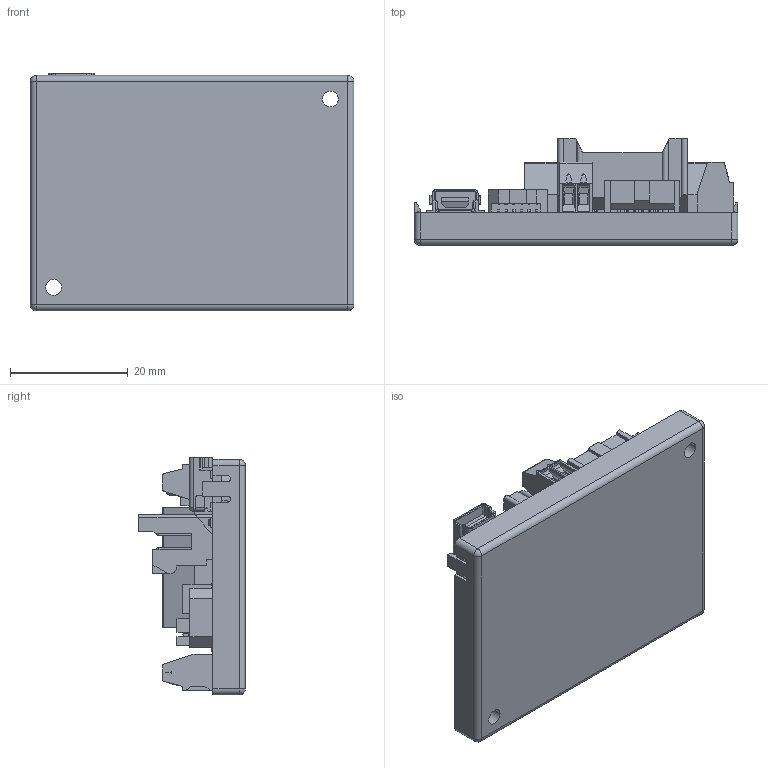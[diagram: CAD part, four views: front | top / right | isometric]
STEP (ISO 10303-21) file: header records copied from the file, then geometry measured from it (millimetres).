
FILE_DESCRIPTION((''),'2;1');
FILE_NAME('530239_EPOS2_24_2_DCX_ASM','2016-10-26T',('mmagrari'),(''),'CREO PARAMETRIC BY PTC INC, 2016050','CREO PARAMETRIC BY PTC INC, 2016050','');
FILE_SCHEMA(('CONFIG_CONTROL_DESIGN'));
Products named in the file (28): 530239_BOARD_EPOS2_24_2_DCX; BOARD_HOLE_PLUG; MPT_0_5-8-2_54_63911; MPT_0_5-5-2_54; MPT_0_5-8-2_54_98990; 338522712; USB_MINI_B; DIP_SWITCH_2P_2; TYCO_V23535_2; MPT_0_5-2-2_54-57990; DF3A-3P-2DSA-27900; SHF_105_01_D_HEADER; RLNPLJ16AYCLF3PRSEE9RX31F; T_1S71_02_05_D_SM; SHF_105_01_L_D_SM_1_ASM; JST_B2B-PH-K-S_SW0001; COVER_36_2; LED_BASE; LED_GREEN; LED_RED; STATUS_INDICATOR_LED_ASM; SILKSCREEN_1-8_WHITE; SILKSCREEN_9-13_WHITE; SILKSCREEN_BASE_8X20; SILKSCREEN_MAXON_LOGO_20X3; SILKSCREEN_530239_TEXT1; SILKSCREEN_530239_ASM; 530239_EPOS2_24_2_DCX_ASM
Assembly tree (31 placements, depth 3):
  530239_EPOS2_24_2_DCX_ASM
    530239_BOARD_EPOS2_24_2_DCX
    BOARD_HOLE_PLUG  x2
    MPT_0_5-8-2_54_63911
    MPT_0_5-5-2_54
    MPT_0_5-8-2_54_98990
    338522712  x2
    USB_MINI_B
    DIP_SWITCH_2P_2
    TYCO_V23535_2
    MPT_0_5-2-2_54-57990
    DF3A-3P-2DSA-27900
    SHF_105_01_L_D_SM_1_ASM
      SHF_105_01_D_HEADER
      RLNPLJ16AYCLF3PRSEE9RX31F
      T_1S71_02_05_D_SM
    JST_B2B-PH-K-S_SW0001
    COVER_36_2
    STATUS_INDICATOR_LED_ASM
      LED_BASE  x2
      LED_GREEN
      LED_RED
    SILKSCREEN_1-8_WHITE  x2
    SILKSCREEN_9-13_WHITE
    SILKSCREEN_530239_ASM
      SILKSCREEN_BASE_8X20
      SILKSCREEN_MAXON_LOGO_20X3
      SILKSCREEN_530239_TEXT1
Bounding box: 55 x 18.1 x 40.39 mm (x, y, z)
Volume: 10541.1 mm3; surface area: 19103.7 mm2
Topology: 63 solids, 68 shells, 5413 faces, 14896 edges, 9790 vertices
Faces by surface type: plane 4827, cylinder 494, torus 46, cone 24, sphere 22
Entity records: 209488 total; most frequent: CARTESIAN_POINT 28642, ORIENTED_EDGE 27478, DIRECTION 24879, PRESENTATION_STYLE_ASSIGNMENT 14771, STYLED_ITEM 13965, CURVE_STYLE 13751, EDGE_CURVE 13751, VECTOR 12543
